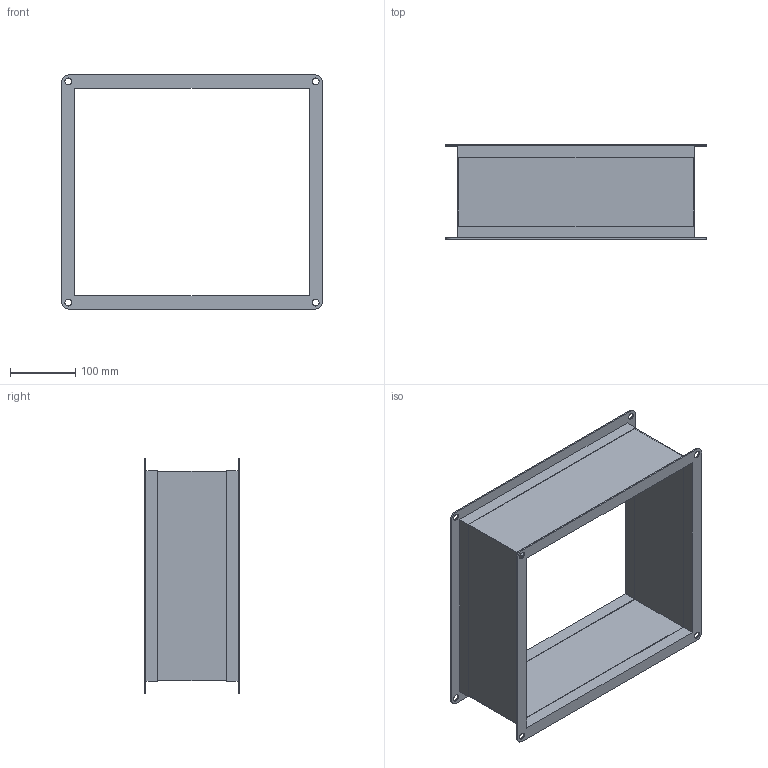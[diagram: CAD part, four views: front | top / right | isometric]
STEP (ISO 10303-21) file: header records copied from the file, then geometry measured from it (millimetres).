
FILE_DESCRIPTION(/* description */ (''),/* implementation_level */ '2;1');
FILE_NAME(/* name */ 'Z:\Output\AIR1-VS_35-31-04372-001.stp',/* time_stamp */ '2020-03-19T08:12:12+01:00',/* author */ ('Engineering1'),/* organization */ (''),/* preprocessor_version */ 'ST-DEVELOPER v17.2',/* originating_system */ 'Autodesk Inventor 2019',/* authorisation */ '');
FILE_SCHEMA (('AUTOMOTIVE_DESIGN { 1 0 10303 214 3 1 1 }'));
Length unit declared in the file: millimetre
Products named in the file (1): VS-1
Bounding box: 398 x 145 x 358 mm (x, y, z)
Volume: 353551.2 mm3; surface area: 505546.3 mm2
Topology: 1 solids, 1 shells, 56 faces, 148 edges, 100 vertices
Faces by surface type: plane 40, cylinder 16
Full cylindrical faces by diameter (mm): 10.5 x8
Entity records: 1832 total; most frequent: CARTESIAN_POINT 305, DIRECTION 298, ORIENTED_EDGE 296, EDGE_CURVE 148, LINE 112, VECTOR 112, VERTEX_POINT 100, AXIS2_PLACEMENT_3D 93
